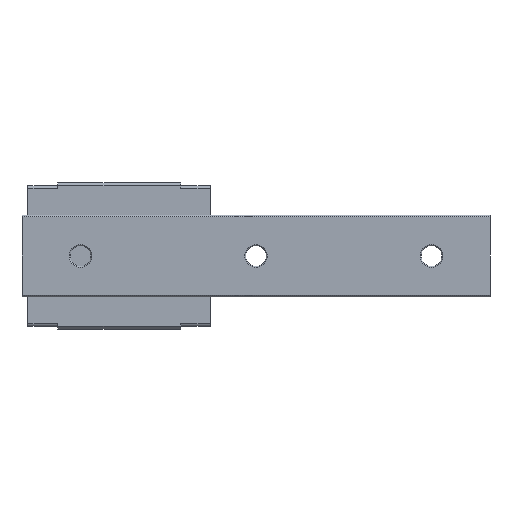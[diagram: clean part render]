
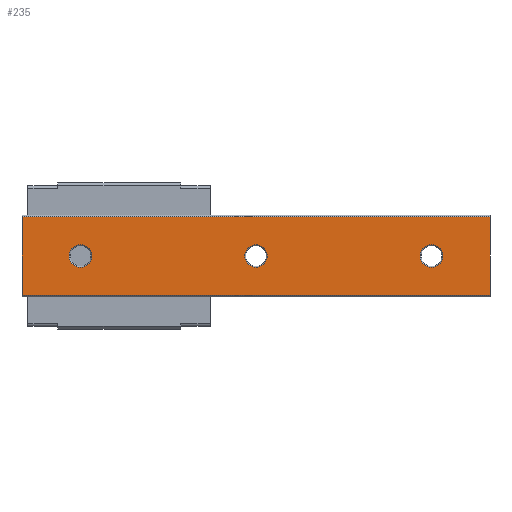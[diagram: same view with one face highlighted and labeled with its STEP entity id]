
A CAD part, front view. The second image highlights one B-rep face of the part: STEP entity #235.
In plain terms, the highlighted planar face has unit normal (0, -1, 0).
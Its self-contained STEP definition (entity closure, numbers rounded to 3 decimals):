
#235 = ADVANCED_FACE( '', ( #528, #529, #530, #531 ), #532, .F. );
#528 = FACE_BOUND( '', #894, .T. );
#529 = FACE_BOUND( '', #895, .T. );
#530 = FACE_BOUND( '', #896, .T. );
#531 = FACE_OUTER_BOUND( '', #897, .T. );
#532 = PLANE( '', #898 );
#894 = EDGE_LOOP( '', ( #1411 ) );
#895 = EDGE_LOOP( '', ( #1412 ) );
#896 = EDGE_LOOP( '', ( #1413 ) );
#897 = EDGE_LOOP( '', ( #1414, #1415, #1416, #1417 ) );
#898 = AXIS2_PLACEMENT_3D( '', #1418, #1419, #1420 );
#1411 = ORIENTED_EDGE( '', *, *, #2205, .F. );
#1412 = ORIENTED_EDGE( '', *, *, #2206, .F. );
#1413 = ORIENTED_EDGE( '', *, *, #2207, .F. );
#1414 = ORIENTED_EDGE( '', *, *, #2208, .T. );
#1415 = ORIENTED_EDGE( '', *, *, #2080, .F. );
#1416 = ORIENTED_EDGE( '', *, *, #2209, .F. );
#1417 = ORIENTED_EDGE( '', *, *, #2210, .T. );
#1418 = CARTESIAN_POINT( '', ( 80., 0., 6.7 ) );
#1419 = DIRECTION( '', ( 0., 1., 0. ) );
#1420 = DIRECTION( '', ( 0., 0., 1. ) );
#2080 = EDGE_CURVE( '', #2457, #2452, #2459, .T. );
#2205 = EDGE_CURVE( '', #2669, #2669, #2670, .T. );
#2206 = EDGE_CURVE( '', #2671, #2671, #2672, .T. );
#2207 = EDGE_CURVE( '', #2673, #2673, #2674, .T. );
#2208 = EDGE_CURVE( '', #2675, #2452, #2676, .T. );
#2209 = EDGE_CURVE( '', #2677, #2457, #2678, .T. );
#2210 = EDGE_CURVE( '', #2677, #2675, #2679, .T. );
#2452 = VERTEX_POINT( '', #2991 );
#2457 = VERTEX_POINT( '', #2998 );
#2459 = LINE( '', #3001, #3002 );
#2669 = VERTEX_POINT( '', #3279 );
#2670 = CIRCLE( '', #3280, 1.955 );
#2671 = VERTEX_POINT( '', #3281 );
#2672 = CIRCLE( '', #3282, 1.955 );
#2673 = VERTEX_POINT( '', #3283 );
#2674 = CIRCLE( '', #3284, 1.955 );
#2675 = VERTEX_POINT( '', #3285 );
#2676 = LINE( '', #3286, #3287 );
#2677 = VERTEX_POINT( '', #3288 );
#2678 = LINE( '', #3289, #3290 );
#2679 = LINE( '', #3291, #3292 );
#2991 = CARTESIAN_POINT( '', ( 0., 0., -6.7 ) );
#2998 = CARTESIAN_POINT( '', ( 80., 0., -6.7 ) );
#3001 = CARTESIAN_POINT( '', ( 80., 0., -6.7 ) );
#3002 = VECTOR( '', #3659, 1000. );
#3279 = CARTESIAN_POINT( '', ( 10., 0., -1.955 ) );
#3280 = AXIS2_PLACEMENT_3D( '', #3817, #3818, #3819 );
#3281 = CARTESIAN_POINT( '', ( 70., 0., -1.955 ) );
#3282 = AXIS2_PLACEMENT_3D( '', #3820, #3821, #3822 );
#3283 = CARTESIAN_POINT( '', ( 40., 0., -1.955 ) );
#3284 = AXIS2_PLACEMENT_3D( '', #3823, #3824, #3825 );
#3285 = CARTESIAN_POINT( '', ( 0., 0., 6.7 ) );
#3286 = CARTESIAN_POINT( '', ( 0., 0., 6.7 ) );
#3287 = VECTOR( '', #3826, 1000. );
#3288 = CARTESIAN_POINT( '', ( 80., 0., 6.7 ) );
#3289 = CARTESIAN_POINT( '', ( 80., 0., 6.7 ) );
#3290 = VECTOR( '', #3827, 1000. );
#3291 = CARTESIAN_POINT( '', ( 80., 0., 6.7 ) );
#3292 = VECTOR( '', #3828, 1000. );
#3659 = DIRECTION( '', ( -1., 0., 0. ) );
#3817 = CARTESIAN_POINT( '', ( 10., 0., 0. ) );
#3818 = DIRECTION( '', ( 0., -1., 0. ) );
#3819 = DIRECTION( '', ( 0., 0., -1. ) );
#3820 = CARTESIAN_POINT( '', ( 70., 0., 0. ) );
#3821 = DIRECTION( '', ( 0., -1., 0. ) );
#3822 = DIRECTION( '', ( 0., 0., -1. ) );
#3823 = CARTESIAN_POINT( '', ( 40., 0., 0. ) );
#3824 = DIRECTION( '', ( 0., -1., 0. ) );
#3825 = DIRECTION( '', ( 0., 0., -1. ) );
#3826 = DIRECTION( '', ( 0., 0., -1. ) );
#3827 = DIRECTION( '', ( 0., 0., -1. ) );
#3828 = DIRECTION( '', ( -1., 0., 0. ) );
